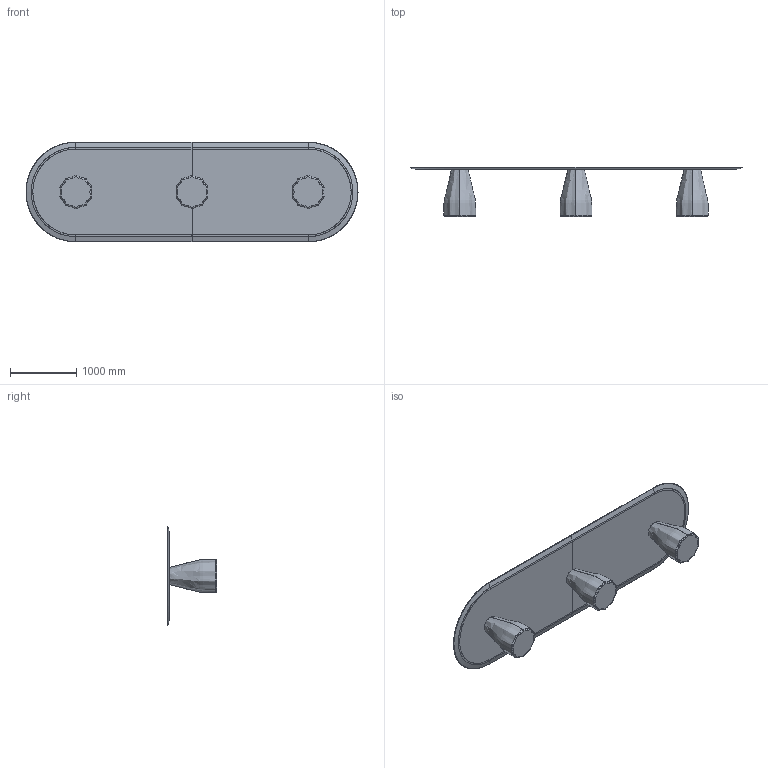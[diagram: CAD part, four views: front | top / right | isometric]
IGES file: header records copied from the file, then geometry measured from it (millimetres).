
Start section: SolidWorks IGES file using analytic representation for surfaces
Global section: file name: Z:\01-VICCARBE\PRODUCTOS\63-BURIN\04-MODELADOS (PLANOS)\02-WEB\SOLIDWORKS\STL\VICCARBE_Burin_500x150.IGS; native system: SolidWorks 2019; preprocessor: SolidWorks 2019; author: bdisenyo; date: 191021.094929; units: millimetre
Bounding box: 5000 x 739 x 1500 mm (x, y, z)
Surface area: 17675529.9 mm2 (no closed solid volume)
Topology: 0 solids, 0 shells, 168 faces, 1398 edges, 1398 vertices
Faces by surface type: bspline 152, revolution 16
